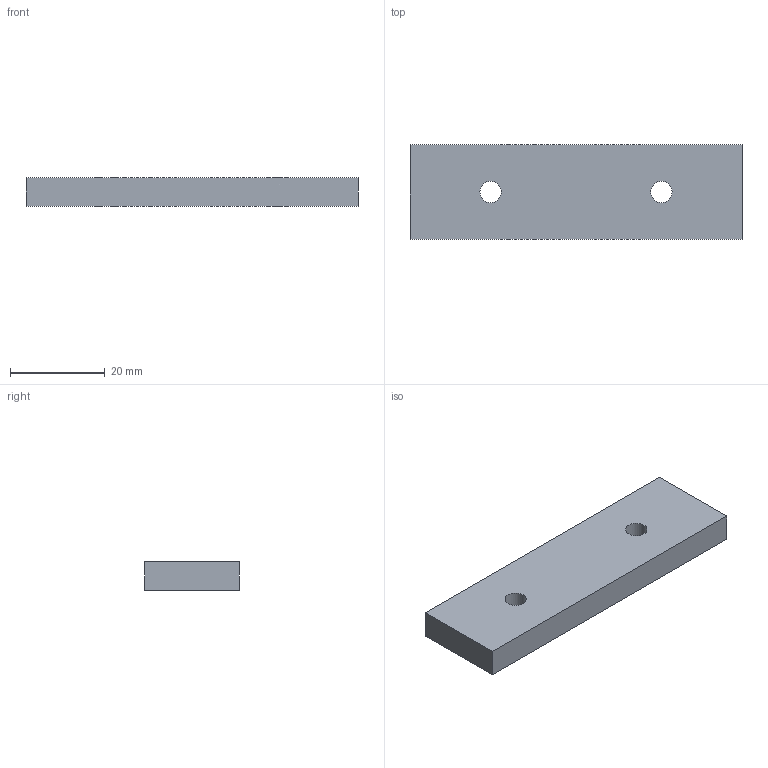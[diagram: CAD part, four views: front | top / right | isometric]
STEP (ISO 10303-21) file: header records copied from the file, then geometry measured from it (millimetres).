
FILE_DESCRIPTION(('Open CASCADE Model'),'2;1');
FILE_NAME('Open CASCADE Shape Model','2026-10-26T17:58:52',('Author'),( 'Open CASCADE'),'Open CASCADE STEP processor 7.9','Open CASCADE 7.9' ,'Unknown');
FILE_SCHEMA(('AUTOMOTIVE_DESIGN { 1 0 10303 214 1 1 1 1 }'));
Length unit declared in the file: millimetre
Products named in the file (1): Open CASCADE STEP translator 7.9 3
Bounding box: 70 x 20 x 6 mm (x, y, z)
Volume: 8209.1 mm3; surface area: 3986 mm2
Topology: 1 solids, 1 shells, 8 faces, 18 edges, 12 vertices
Faces by surface type: plane 6, cylinder 2
Full cylindrical faces by diameter (mm): 4.5 x2
Entity records: 478 total; most frequent: DIRECTION 76, CARTESIAN_POINT 75, LINE 46, VECTOR 46, ORIENTED_EDGE 36, PCURVE 36, DEFINITIONAL_REPRESENTATION 36, EDGE_CURVE 18
